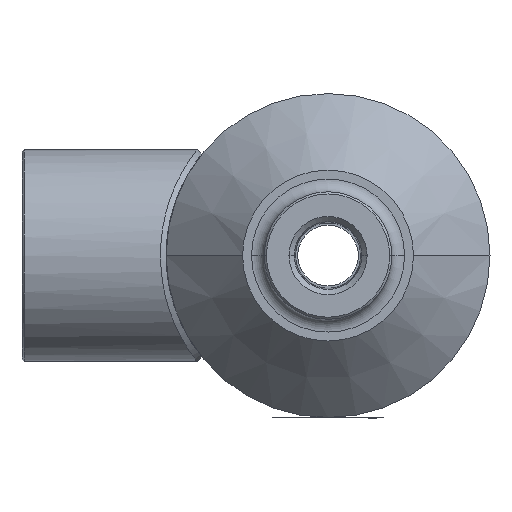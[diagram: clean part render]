
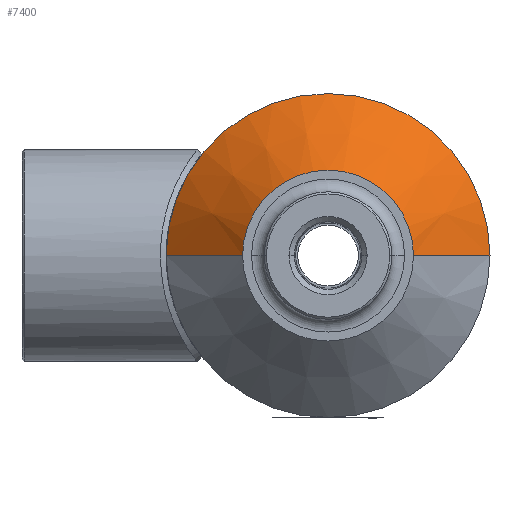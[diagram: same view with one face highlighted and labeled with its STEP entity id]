
A CAD part, front view. The second image highlights one B-rep face of the part: STEP entity #7400.
In plain terms, the highlighted conical face has half-angle 45 degrees and reference radius 38.1 mm.
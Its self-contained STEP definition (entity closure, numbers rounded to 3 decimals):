
#253 = EDGE_CURVE ( 'NONE', #8433, #10340, #2854, .T. ) ;
#456 = DIRECTION ( 'NONE',  ( -1., 0., 0. ) ) ;
#859 = AXIS2_PLACEMENT_3D ( 'NONE', #8483, #12705, #456 ) ;
#937 = ORIENTED_EDGE ( 'NONE', *, *, #5992, .T. ) ;
#1713 = VECTOR ( 'NONE', #6293, 1000. ) ;
#1882 = DIRECTION ( 'NONE',  ( 0., 1., 0. ) ) ;
#2358 = EDGE_CURVE ( 'NONE', #9768, #7252, #10565, .T. ) ;
#2854 = CIRCLE ( 'NONE', #859, 38.1 ) ;
#3298 = DIRECTION ( 'NONE',  ( -0.707, 0.707, 0. ) ) ;
#4294 = EDGE_CURVE ( 'NONE', #7252, #8433, #10627, .T. ) ;
#4299 = DIRECTION ( 'NONE',  ( -1., 0., 0. ) ) ;
#4685 = CARTESIAN_POINT ( 'NONE',  ( 0., -5., 0. ) ) ;
#4976 = CONICAL_SURFACE ( 'NONE', #12721, 38.1, 0.785 ) ;
#5088 = ORIENTED_EDGE ( 'NONE', *, *, #2358, .F. ) ;
#5269 = AXIS2_PLACEMENT_3D ( 'NONE', #10318, #11839, #4299 ) ;
#5307 = CARTESIAN_POINT ( 'NONE',  ( -38.1, -5., 0. ) ) ;
#5904 = VECTOR ( 'NONE', #3298, 1000. ) ;
#5992 = EDGE_CURVE ( 'NONE', #9768, #10340, #7266, .T. ) ;
#6293 = DIRECTION ( 'NONE',  ( 0.707, 0.707, 0. ) ) ;
#6738 = ORIENTED_EDGE ( 'NONE', *, *, #4294, .F. ) ;
#7110 = EDGE_LOOP ( 'NONE', ( #5088, #937, #11438, #6738 ) ) ;
#7252 = VERTEX_POINT ( 'NONE', #11325 ) ;
#7266 = LINE ( 'NONE', #10372, #1713 ) ;
#7400 = ADVANCED_FACE ( 'NONE', ( #8195 ), #4976, .T. ) ;
#8195 = FACE_OUTER_BOUND ( 'NONE', #7110, .T. ) ;
#8433 = VERTEX_POINT ( 'NONE', #5307 ) ;
#8483 = CARTESIAN_POINT ( 'NONE',  ( 0., -5., 0. ) ) ;
#8565 = CARTESIAN_POINT ( 'NONE',  ( -38.1, -5., 0. ) ) ;
#9768 = VERTEX_POINT ( 'NONE', #12032 ) ;
#9924 = CARTESIAN_POINT ( 'NONE',  ( 38.1, -5., 0. ) ) ;
#10075 = DIRECTION ( 'NONE',  ( -1., 0., 0. ) ) ;
#10318 = CARTESIAN_POINT ( 'NONE',  ( 0., -23., 0. ) ) ;
#10340 = VERTEX_POINT ( 'NONE', #9924 ) ;
#10372 = CARTESIAN_POINT ( 'NONE',  ( 38.1, -5., 0. ) ) ;
#10565 = CIRCLE ( 'NONE', #5269, 20.1 ) ;
#10627 = LINE ( 'NONE', #8565, #5904 ) ;
#11325 = CARTESIAN_POINT ( 'NONE',  ( -20.1, -23., 0. ) ) ;
#11438 = ORIENTED_EDGE ( 'NONE', *, *, #253, .F. ) ;
#11839 = DIRECTION ( 'NONE',  ( 0., -1., 0. ) ) ;
#12032 = CARTESIAN_POINT ( 'NONE',  ( 20.1, -23., 0. ) ) ;
#12705 = DIRECTION ( 'NONE',  ( 0., 1., 0. ) ) ;
#12721 = AXIS2_PLACEMENT_3D ( 'NONE', #4685, #1882, #10075 ) ;
